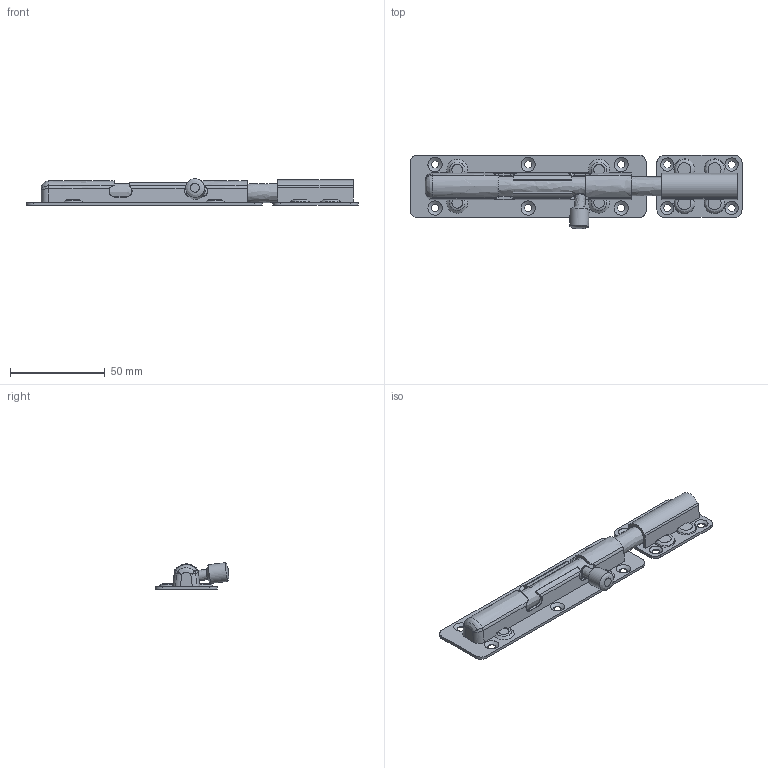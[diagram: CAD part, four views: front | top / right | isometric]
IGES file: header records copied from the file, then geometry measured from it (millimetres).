
Global section: file name: DR_ODS1-6S; native system: Autodesk Inventor 2015; preprocessor: unknown; author: Administrator; date: 20170901.104655; units: millimetre
Bounding box: 175.63 x 39.05 x 14.16 mm (x, y, z)
Volume: 24175.4 mm3; surface area: 24963.8 mm2
Topology: 5 solids, 5 shells, 390 faces, 1035 edges, 633 vertices
Faces by surface type: bspline 390
